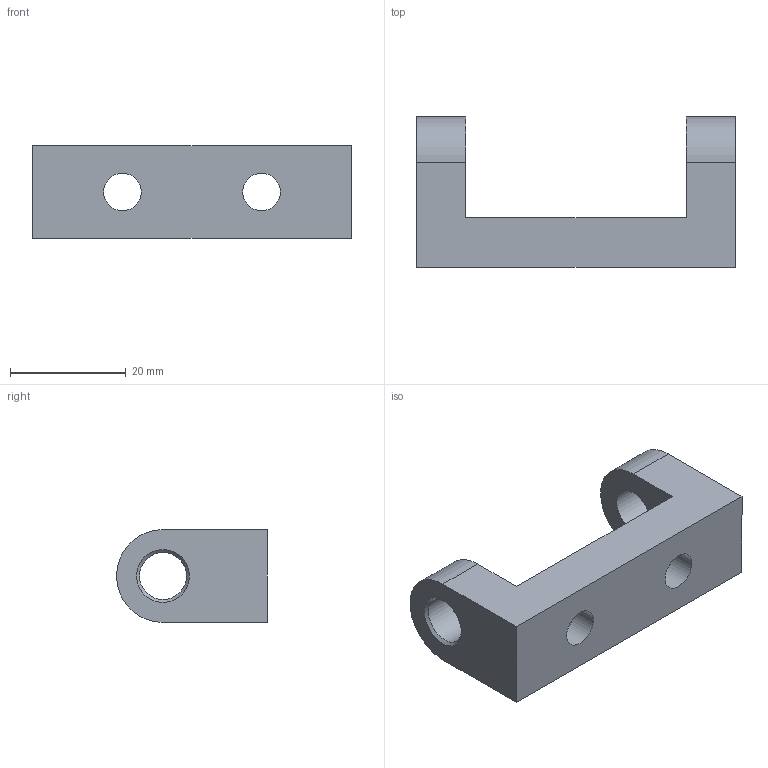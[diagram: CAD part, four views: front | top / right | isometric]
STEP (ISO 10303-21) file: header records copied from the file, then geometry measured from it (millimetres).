
FILE_DESCRIPTION (( 'STEP AP214' ), '1' );
FILE_NAME ('L11107.step', '2024-12-03T16:18:28', ( '' ), ( '' ), 'SwSTEP 2.0', 'SolidWorks 2023', '' );
FILE_SCHEMA (( 'AUTOMOTIVE_DESIGN' ));
Length unit declared in the file: millimetre
Products named in the file (1): L11107
Bounding box: 55 x 26 x 16 mm (x, y, z)
Volume: 9760.8 mm3; surface area: 5007.7 mm2
Topology: 1 solids, 1 shells, 20 faces, 50 edges, 34 vertices
Faces by surface type: plane 10, cylinder 8, cone 2
Full cylindrical faces by diameter (mm): 6.5 x2, 8.1 x2, 11.5 x2
Entity records: 571 total; most frequent: DIRECTION 98, CARTESIAN_POINT 89, ORIENTED_EDGE 76, AXIS2_PLACEMENT_3D 39, EDGE_CURVE 38, EDGE_LOOP 38, VERTEX_POINT 30, FACE_OUTER_BOUND 26
